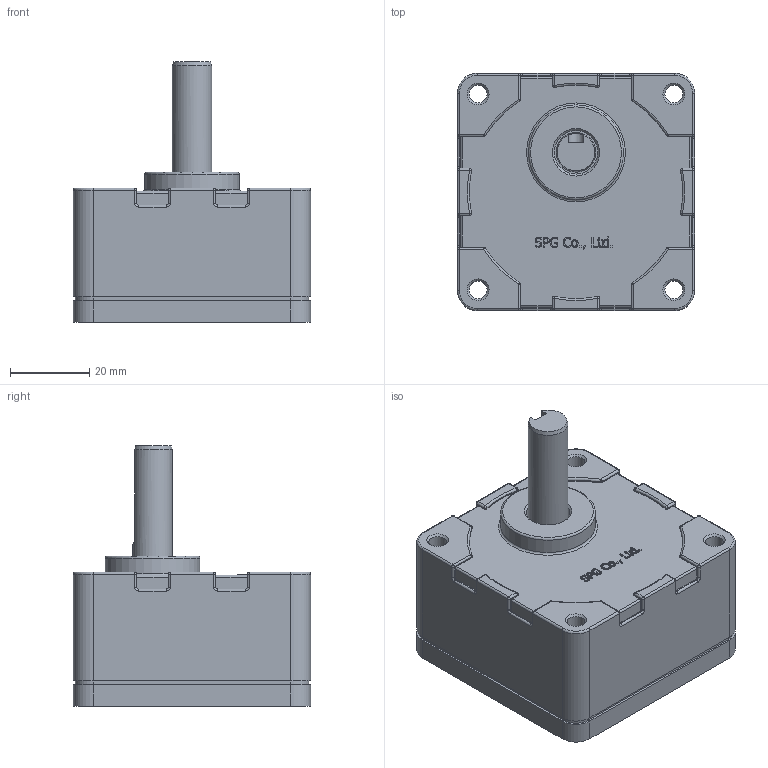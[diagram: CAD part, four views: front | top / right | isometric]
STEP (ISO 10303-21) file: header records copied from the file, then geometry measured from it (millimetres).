
FILE_DESCRIPTION((''),'2;1');
FILE_NAME('C:\Documents and Settings\Administrator\바탕 화면\BLDC 3D FILE\GEAR HEAD ASS''Y\60\XTG65K~XTG620K.stp','2014-06-19T12:42:46',('kdhkdh'),(''),'Autodesk Inventor 2011','Autodesk Inventor 2011','');
FILE_SCHEMA(('AUTOMOTIVE_DESIGN { 1 0 10303 214 1 1 1 1 }'));
Length unit declared in the file: millimetre
Products named in the file (1): 부품6
Bounding box: 60 x 60 x 66 mm (x, y, z)
Volume: 115059.2 mm3; surface area: 19836.5 mm2
Topology: 1 solids, 1 shells, 449 faces, 1130 edges, 686 vertices
Faces by surface type: plane 152, cylinder 140, bspline 81, sphere 32, torus 30, cone 14
Full cylindrical faces by diameter (mm): 2.6 x6, 2.8 x4, 4.5 x4, 5 x8, 5.7 x1, 10 x1, 11 x1, 24 x1, 54 x1
Entity records: 13309 total; most frequent: CARTESIAN_POINT 3325, ORIENTED_EDGE 2072, DIRECTION 1941, EDGE_CURVE 1036, AXIS2_PLACEMENT_3D 704, VERTEX_POINT 666, EDGE_LOOP 534, VECTOR 533
